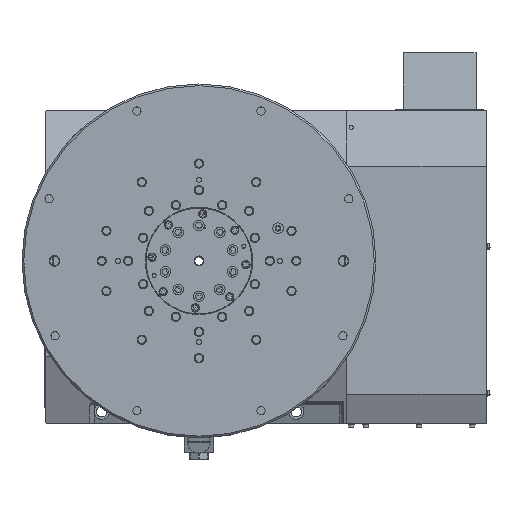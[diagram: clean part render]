
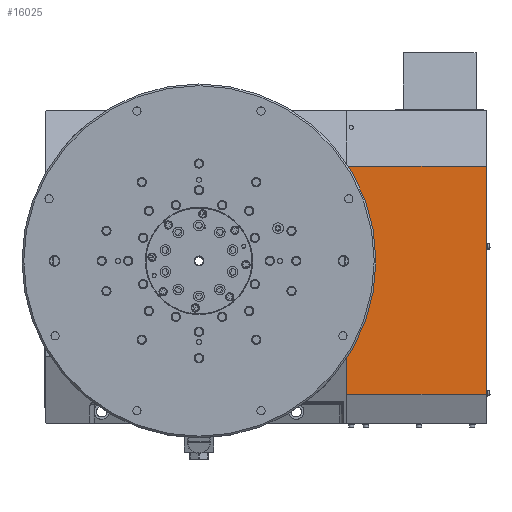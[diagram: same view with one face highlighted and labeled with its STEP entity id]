
A CAD part, top view. The second image highlights one B-rep face of the part: STEP entity #16025.
In plain terms, the highlighted planar face has unit normal (0, 0, 1).
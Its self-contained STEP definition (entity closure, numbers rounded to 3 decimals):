
#661 = PLANE ( 'NONE',  #23246 ) ;
#783 = VERTEX_POINT ( 'NONE', #11841 ) ;
#946 = VERTEX_POINT ( 'NONE', #24611 ) ;
#1020 = CARTESIAN_POINT ( 'NONE',  ( 258., 16.5, 103.3 ) ) ;
#1346 = VECTOR ( 'NONE', #11707, 1000. ) ;
#1477 = EDGE_LOOP ( 'NONE', ( #22726 ) ) ;
#1817 = DIRECTION ( 'NONE',  ( 0., 0., 1. ) ) ;
#2222 = CARTESIAN_POINT ( 'NONE',  ( 258., -97., 103.3 ) ) ;
#2549 = EDGE_CURVE ( 'NONE', #9319, #6971, #6280, .T. ) ;
#3087 = CARTESIAN_POINT ( 'NONE',  ( 485., 160.796, 103.3 ) ) ;
#3497 = DIRECTION ( 'NONE',  ( 0., -1., 0. ) ) ;
#4360 = CARTESIAN_POINT ( 'NONE',  ( 485., -226.144, 103.3 ) ) ;
#5071 = EDGE_LOOP ( 'NONE', ( #7062 ) ) ;
#6280 = LINE ( 'NONE', #25407, #10632 ) ;
#6656 = FACE_BOUND ( 'NONE', #5071, .T. ) ;
#6971 = VERTEX_POINT ( 'NONE', #33911 ) ;
#7062 = ORIENTED_EDGE ( 'NONE', *, *, #7327, .F. ) ;
#7327 = EDGE_CURVE ( 'NONE', #31682, #31682, #25964, .T. ) ;
#7935 = DIRECTION ( 'NONE',  ( 0., -1., 0. ) ) ;
#8052 = EDGE_CURVE ( 'NONE', #26275, #26275, #13113, .T. ) ;
#8717 = EDGE_LOOP ( 'NONE', ( #17726, #17313, #19035, #10488 ) ) ;
#9319 = VERTEX_POINT ( 'NONE', #31834 ) ;
#10488 = ORIENTED_EDGE ( 'NONE', *, *, #2549, .F. ) ;
#10632 = VECTOR ( 'NONE', #14162, 1000. ) ;
#10776 = EDGE_CURVE ( 'NONE', #783, #783, #11479, .T. ) ;
#10796 = AXIS2_PLACEMENT_3D ( 'NONE', #1020, #24729, #3497 ) ;
#11129 = VERTEX_POINT ( 'NONE', #25403 ) ;
#11360 = CARTESIAN_POINT ( 'NONE',  ( 250., 252.5, 103.3 ) ) ;
#11479 = CIRCLE ( 'NONE', #13725, 3.5 ) ;
#11707 = DIRECTION ( 'NONE',  ( 0., -1., 0. ) ) ;
#11841 = CARTESIAN_POINT ( 'NONE',  ( 258., 118., 103.3 ) ) ;
#12344 = EDGE_LOOP ( 'NONE', ( #14046 ) ) ;
#13113 = CIRCLE ( 'NONE', #28793, 3.5 ) ;
#13725 = AXIS2_PLACEMENT_3D ( 'NONE', #27238, #33010, #16893 ) ;
#13944 = LINE ( 'NONE', #3087, #21220 ) ;
#14046 = ORIENTED_EDGE ( 'NONE', *, *, #8052, .F. ) ;
#14162 = DIRECTION ( 'NONE',  ( 0., -1., 0. ) ) ;
#14166 = LINE ( 'NONE', #11360, #1346 ) ;
#14182 = DIRECTION ( 'NONE',  ( 0., 1., 0. ) ) ;
#14364 = CARTESIAN_POINT ( 'NONE',  ( 485., 252.5, 103.3 ) ) ;
#16025 = ADVANCED_FACE ( 'NONE', ( #27524, #27882, #6656, #16658 ), #661, .F. ) ;
#16658 = FACE_BOUND ( 'NONE', #1477, .T. ) ;
#16893 = DIRECTION ( 'NONE',  ( 0., -1., 0. ) ) ;
#17173 = LINE ( 'NONE', #4360, #31708 ) ;
#17313 = ORIENTED_EDGE ( 'NONE', *, *, #19101, .T. ) ;
#17726 = ORIENTED_EDGE ( 'NONE', *, *, #26293, .F. ) ;
#19035 = ORIENTED_EDGE ( 'NONE', *, *, #30047, .F. ) ;
#19101 = EDGE_CURVE ( 'NONE', #946, #11129, #14166, .T. ) ;
#19642 = DIRECTION ( 'NONE',  ( 0., 0., -1. ) ) ;
#21220 = VECTOR ( 'NONE', #24662, 1000. ) ;
#22726 = ORIENTED_EDGE ( 'NONE', *, *, #10776, .F. ) ;
#23246 = AXIS2_PLACEMENT_3D ( 'NONE', #14364, #19642, #14182 ) ;
#24611 = CARTESIAN_POINT ( 'NONE',  ( 250., 160.796, 103.3 ) ) ;
#24662 = DIRECTION ( 'NONE',  ( 1., 0., 0. ) ) ;
#24729 = DIRECTION ( 'NONE',  ( 0., 0., 1. ) ) ;
#25235 = DIRECTION ( 'NONE',  ( -1., 0., 0. ) ) ;
#25403 = CARTESIAN_POINT ( 'NONE',  ( 250., -226.144, 103.3 ) ) ;
#25407 = CARTESIAN_POINT ( 'NONE',  ( 487.3, 252.5, 103.3 ) ) ;
#25870 = CARTESIAN_POINT ( 'NONE',  ( 258., -93.5, 103.3 ) ) ;
#25964 = CIRCLE ( 'NONE', #10796, 3.5 ) ;
#26275 = VERTEX_POINT ( 'NONE', #2222 ) ;
#26293 = EDGE_CURVE ( 'NONE', #946, #9319, #13944, .T. ) ;
#27238 = CARTESIAN_POINT ( 'NONE',  ( 258., 121.5, 103.3 ) ) ;
#27524 = FACE_OUTER_BOUND ( 'NONE', #8717, .T. ) ;
#27882 = FACE_BOUND ( 'NONE', #12344, .T. ) ;
#28389 = CARTESIAN_POINT ( 'NONE',  ( 258., 13., 103.3 ) ) ;
#28793 = AXIS2_PLACEMENT_3D ( 'NONE', #25870, #1817, #7935 ) ;
#30047 = EDGE_CURVE ( 'NONE', #6971, #11129, #17173, .T. ) ;
#31682 = VERTEX_POINT ( 'NONE', #28389 ) ;
#31708 = VECTOR ( 'NONE', #25235, 1000. ) ;
#31834 = CARTESIAN_POINT ( 'NONE',  ( 487.3, 160.796, 103.3 ) ) ;
#33010 = DIRECTION ( 'NONE',  ( 0., 0., 1. ) ) ;
#33911 = CARTESIAN_POINT ( 'NONE',  ( 487.3, -226.144, 103.3 ) ) ;
